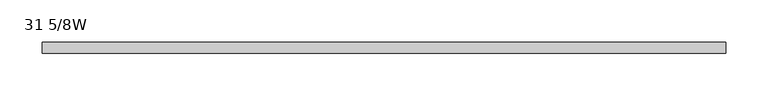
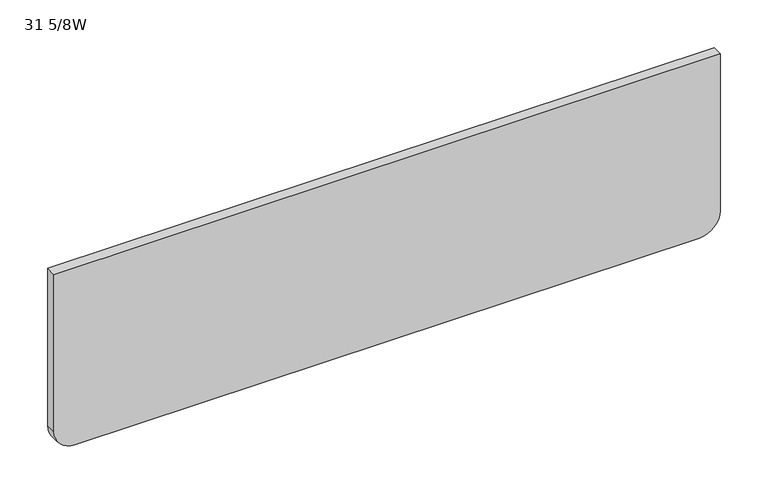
"""IFC4 building model written with IfcOpenShell, lengths in millimetres: furniture geometry, Steelcase - Groupwork - Table Component - Modesty Panel : 31 5/8W."""

from ifc_helpers import new_model, si_unit, point, frame, frame_2d, origin, place, context, project, spatial, polyline, circle_curve, trimmed, segment, composite_curve, outline, extrude, source, transform, mapped, element, save


def furniture_31_5_8w_bd3e6728(model_context):
    return source(origin(), model_context, "Body", "SweptSolid", [
        extrude(outline(composite_curve([segment(polyline([(497.8399855, 1279.7116774), (698.5000242, 1279.7116774), (698.5000242, 475.8016774), (497.8399855, 475.8016774)]), True, "CONTINUOUS"), segment(trimmed(circle_curve(frame_2d((497.8399855, 501.2016774)), 25.4), [point((497.8399855, 475.8016774))], [point((472.4399855, 501.2016774))], False, "CARTESIAN"), True, "CONTINUOUS"), segment(polyline([(472.4399855, 501.2016774), (472.4399855, 1254.3116774)]), True, "CONTINUOUS"), segment(trimmed(circle_curve(frame_2d((497.8399855, 1254.3116774)), 25.4), [point((472.4399855, 1254.3116774))], [point((497.8399855, 1279.7116774))], False, "CARTESIAN"), True, "CONTINUOUS")], self_intersect=False)), frame((0.0, -585.8617631, 0.0), z_axis=(0.0, 1.0, 0.0), x_axis=(0.0, 0.0, 1.0)), (0.0, 0.0, 1.0), 12.7),
    ])


if __name__ == "__main__":
    model = new_model("IFC4")
    model_context = context("Model", 3, world=origin())
    ifc_project = project(units=[si_unit("LENGTHUNIT", "METRE", prefix="MILLI")], contexts=[model_context])
    site = spatial("IfcSite", under=ifc_project)
    building = spatial("IfcBuilding", under=site)
    placement = place(None, origin())
    furniture_31_5_8w_shape = furniture_31_5_8w_bd3e6728(model_context)
    element("IfcFurniture", 1, ObjectType="Steelcase - Groupwork - Table Component - Modesty Panel : 31 5/8W", at=placement, inside=building, context=model_context, shape_type="MappedRepresentation", body=[
        mapped(furniture_31_5_8w_shape, transform((0.0, 0.0, 0.0), x_axis=(1.0, 0.0, 0.0), y_axis=(0.0, 1.0, 0.0), z_axis=(0.0, 0.0, 1.0))),
    ])
    save(model, "model.ifc")
